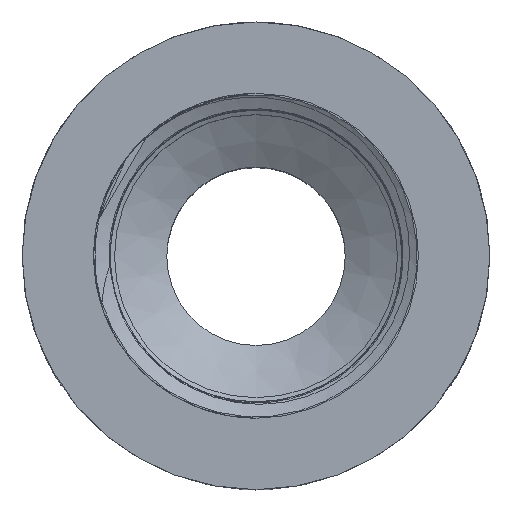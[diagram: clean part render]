
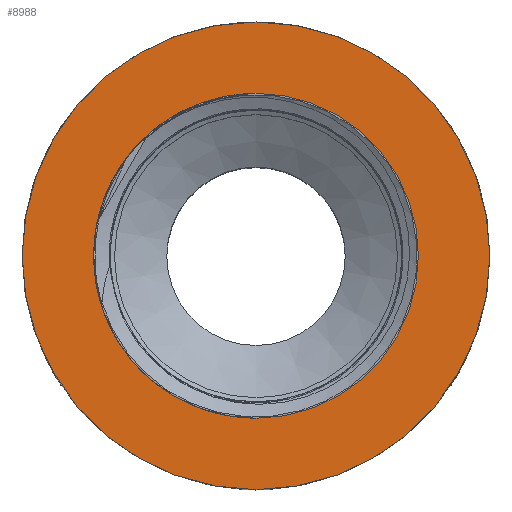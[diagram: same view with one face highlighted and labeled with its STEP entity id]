
A CAD part, top view. The second image highlights one B-rep face of the part: STEP entity #8988.
In plain terms, the highlighted planar face has unit normal (0, 0, 1).
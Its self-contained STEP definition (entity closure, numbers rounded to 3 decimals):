
#1057=FACE_BOUND('',#2827,.T.);
#2190=PLANE('',#9549);
#2307=FACE_OUTER_BOUND('',#2826,.T.);
#2826=EDGE_LOOP('',(#6161,#6162));
#2827=EDGE_LOOP('',(#6163,#6164));
#3390=CIRCLE('',#9534,19.);
#3391=CIRCLE('',#9535,19.);
#3395=CIRCLE('',#9550,13.2);
#3396=CIRCLE('',#9551,13.2);
#3657=VERTEX_POINT('',#11394);
#3658=VERTEX_POINT('',#11396);
#3669=VERTEX_POINT('',#11453);
#3670=VERTEX_POINT('',#11454);
#4645=EDGE_CURVE('',#3657,#3658,#3390,.T.);
#4646=EDGE_CURVE('',#3658,#3657,#3391,.T.);
#4664=EDGE_CURVE('',#3669,#3670,#3395,.T.);
#4665=EDGE_CURVE('',#3670,#3669,#3396,.T.);
#6161=ORIENTED_EDGE('',*,*,#4646,.F.);
#6162=ORIENTED_EDGE('',*,*,#4645,.F.);
#6163=ORIENTED_EDGE('',*,*,#4664,.T.);
#6164=ORIENTED_EDGE('',*,*,#4665,.T.);
#8988=ADVANCED_FACE('',(#2307,#1057),#2190,.T.);
#9534=AXIS2_PLACEMENT_3D('',#11397,#9990,#9991);
#9535=AXIS2_PLACEMENT_3D('',#11398,#9992,#9993);
#9549=AXIS2_PLACEMENT_3D('',#11452,#10026,#10027);
#9550=AXIS2_PLACEMENT_3D('',#11455,#10028,#10029);
#9551=AXIS2_PLACEMENT_3D('',#11456,#10030,#10031);
#9990=DIRECTION('center_axis',(0.,0.,-1.));
#9991=DIRECTION('ref_axis',(1.,0.,0.));
#9992=DIRECTION('center_axis',(0.,0.,-1.));
#9993=DIRECTION('ref_axis',(1.,0.,0.));
#10026=DIRECTION('center_axis',(0.,0.,1.));
#10027=DIRECTION('ref_axis',(1.,0.,0.));
#10028=DIRECTION('center_axis',(0.,0.,-1.));
#10029=DIRECTION('ref_axis',(1.,0.,0.));
#10030=DIRECTION('center_axis',(0.,0.,-1.));
#10031=DIRECTION('ref_axis',(1.,0.,0.));
#11394=CARTESIAN_POINT('',(0.,-19.,53.));
#11396=CARTESIAN_POINT('',(0.,19.,53.));
#11397=CARTESIAN_POINT('Origin',(0.,0.,53.));
#11398=CARTESIAN_POINT('Origin',(0.,0.,53.));
#11452=CARTESIAN_POINT('Origin',(0.,19.,53.));
#11453=CARTESIAN_POINT('',(0.,13.2,53.));
#11454=CARTESIAN_POINT('',(0.,-13.2,53.));
#11455=CARTESIAN_POINT('Origin',(0.,0.,53.));
#11456=CARTESIAN_POINT('Origin',(0.,0.,53.));
